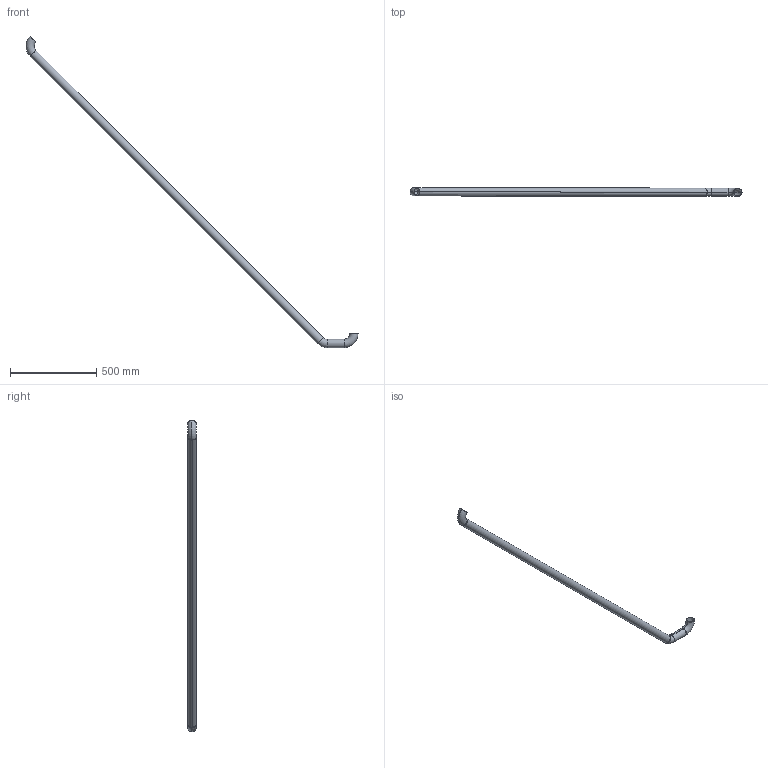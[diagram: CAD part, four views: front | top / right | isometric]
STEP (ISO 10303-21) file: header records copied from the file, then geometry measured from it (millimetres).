
FILE_DESCRIPTION (( 'STEP AP214' ), '1' );
FILE_NAME ('CCJ029-REP.303 - MAIN COURANTE ESCALIER INTERMEDIAIRE DOUBLE.STEP', '2025-11-04T11:05:38', ( '' ), ( '' ), 'SwSTEP 2.0', 'SolidWorks 2021', '' );
FILE_SCHEMA (( 'AUTOMOTIVE_DESIGN' ));
Length unit declared in the file: millimetre
Products named in the file (1): CCJ029-REP.303 - MAIN COURANTE ESCALIER INTERMEDIAIRE DOUBLE
Bounding box: 1924.6 x 48.3 x 1804.79 mm (x, y, z)
Volume: 962830.6 mm3; surface area: 770983.9 mm2
Topology: 1 solids, 1 shells, 26 faces, 52 edges, 28 vertices
Faces by surface type: torus 12, cylinder 12, plane 2
Entity records: 714 total; most frequent: DIRECTION 146, CARTESIAN_POINT 107, ORIENTED_EDGE 104, AXIS2_PLACEMENT_3D 67, EDGE_CURVE 52, CIRCLE 40, VERTEX_POINT 28, EDGE_LOOP 28
